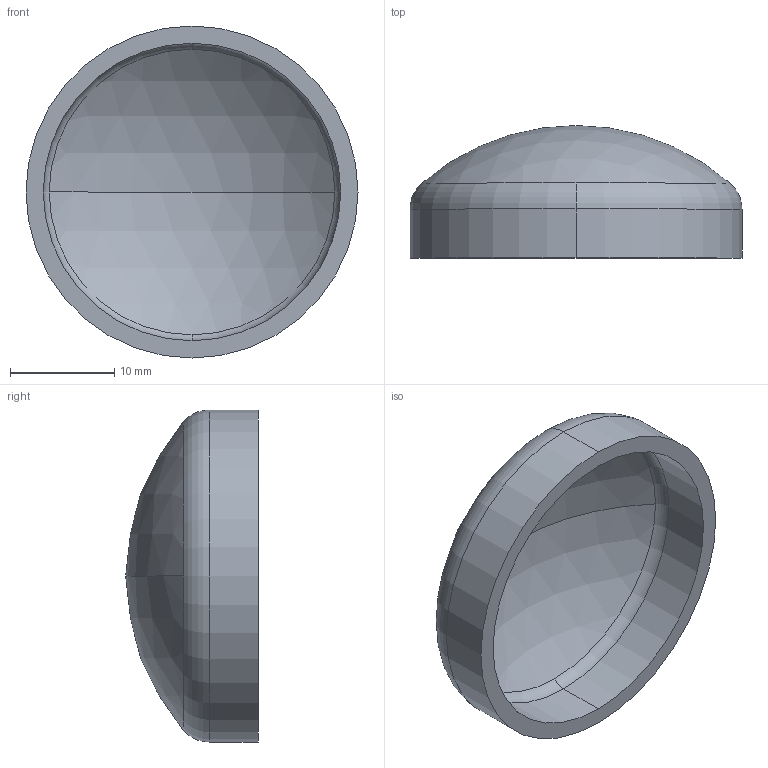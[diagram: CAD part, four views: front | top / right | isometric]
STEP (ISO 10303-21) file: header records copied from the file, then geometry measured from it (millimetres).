
FILE_DESCRIPTION (( 'STEP AP203' ), '1' );
FILE_NAME ('E16W-1.25.STEP', '2025-07-17T08:18:39', ( '' ), ( '' ), 'SwSTEP 2.0', 'SolidWorks 2014', '' );
FILE_SCHEMA (( 'CONFIG_CONTROL_DESIGN' ));
Length unit declared in the file: millimetre
Products named in the file (2): E16W-1.25
Bounding box: 31.8 x 12.7 x 31.8 mm (x, y, z)
Volume: 2254.8 mm3; surface area: 2895 mm2
Topology: 1 solids, 1 shells, 13 faces, 28 edges, 18 vertices
Faces by surface type: sphere 4, torus 4, cylinder 4, plane 1
Entity records: 525 total; most frequent: DIRECTION 82, CARTESIAN_POINT 61, ORIENTED_EDGE 56, AXIS2_PLACEMENT_3D 39, EDGE_CURVE 28, CIRCLE 24, VERTEX_POINT 18, PERSON_AND_ORGANIZATION 16
